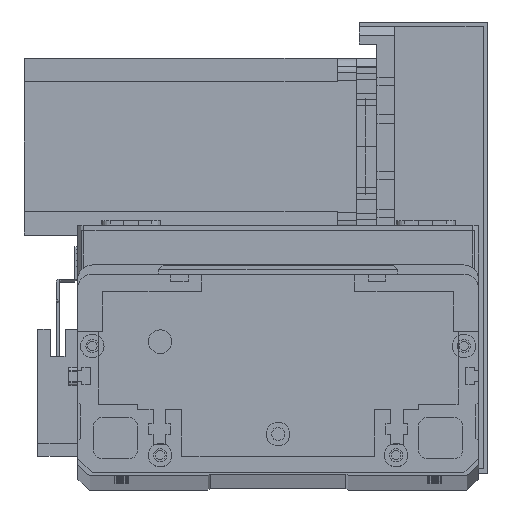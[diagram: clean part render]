
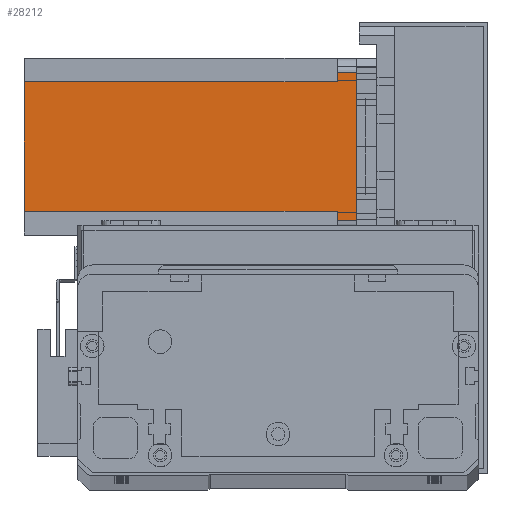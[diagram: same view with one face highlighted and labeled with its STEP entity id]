
A CAD part, top view. The second image highlights one B-rep face of the part: STEP entity #28212.
In plain terms, the highlighted planar face has unit normal (0, 0, 1) as drawn and (0, 1, 0) by its records, which use the part's own axes.
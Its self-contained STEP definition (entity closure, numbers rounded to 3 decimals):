
#403 = DIRECTION ( 'NONE',  ( -1., 0., 0. ) ) ;
#672 = CARTESIAN_POINT ( 'NONE',  ( 52., 60., -112.5 ) ) ;
#700 = DIRECTION ( 'NONE',  ( 0., 0., 1. ) ) ;
#946 = VECTOR ( 'NONE', #15217, 1000. ) ;
#1436 = DIRECTION ( 'NONE',  ( 0., 0., -1. ) ) ;
#1493 = VERTEX_POINT ( 'NONE', #10288 ) ;
#1820 = CARTESIAN_POINT ( 'NONE',  ( 8., 60., -112.5 ) ) ;
#2195 = ORIENTED_EDGE ( 'NONE', *, *, #10609, .F. ) ;
#3015 = ORIENTED_EDGE ( 'NONE', *, *, #12422, .T. ) ;
#3033 = VERTEX_POINT ( 'NONE', #4840 ) ;
#3505 = ORIENTED_EDGE ( 'NONE', *, *, #8983, .T. ) ;
#4778 = VERTEX_POINT ( 'NONE', #11827 ) ;
#4840 = CARTESIAN_POINT ( 'NONE',  ( 55., 60., -6.5 ) ) ;
#5278 = VECTOR ( 'NONE', #403, 1000. ) ;
#5666 = PLANE ( 'NONE',  #27150 ) ;
#6375 = VECTOR ( 'NONE', #15926, 1000. ) ;
#6761 = CARTESIAN_POINT ( 'NONE',  ( 52., 60., -112.5 ) ) ;
#7919 = LINE ( 'NONE', #672, #19904 ) ;
#8370 = LINE ( 'NONE', #18075, #20343 ) ;
#8414 = LINE ( 'NONE', #23848, #20392 ) ;
#8878 = CARTESIAN_POINT ( 'NONE',  ( 8., 60., -6.5 ) ) ;
#8888 = LINE ( 'NONE', #28713, #14494 ) ;
#8983 = EDGE_CURVE ( 'NONE', #21308, #3033, #8414, .T. ) ;
#9417 = ORIENTED_EDGE ( 'NONE', *, *, #15204, .T. ) ;
#10288 = CARTESIAN_POINT ( 'NONE',  ( 52., 60., -6.5 ) ) ;
#10609 = EDGE_CURVE ( 'NONE', #1493, #3033, #20298, .T. ) ;
#11452 = EDGE_CURVE ( 'NONE', #28431, #1493, #7919, .T. ) ;
#11827 = CARTESIAN_POINT ( 'NONE',  ( 8., 60., -112.5 ) ) ;
#11899 = CARTESIAN_POINT ( 'NONE',  ( 55., 60., 0. ) ) ;
#12422 = EDGE_CURVE ( 'NONE', #28431, #4778, #8888, .T. ) ;
#13039 = DIRECTION ( 'NONE',  ( 0., 0., 1. ) ) ;
#14031 = EDGE_CURVE ( 'NONE', #30360, #4778, #27961, .T. ) ;
#14494 = VECTOR ( 'NONE', #28719, 1000. ) ;
#15029 = CARTESIAN_POINT ( 'NONE',  ( 0., 60., 0. ) ) ;
#15204 = EDGE_CURVE ( 'NONE', #30360, #16634, #8370, .T. ) ;
#15217 = DIRECTION ( 'NONE',  ( 1., 0., 0. ) ) ;
#15713 = CARTESIAN_POINT ( 'NONE',  ( 5., 60., -112.5 ) ) ;
#15926 = DIRECTION ( 'NONE',  ( 0., 0., 1. ) ) ;
#15960 = CARTESIAN_POINT ( 'NONE',  ( 52., 60., -6.5 ) ) ;
#15981 = ORIENTED_EDGE ( 'NONE', *, *, #27493, .F. ) ;
#16009 = EDGE_CURVE ( 'NONE', #16634, #28485, #30001, .T. ) ;
#16563 = CARTESIAN_POINT ( 'NONE',  ( 5., 60., 0. ) ) ;
#16634 = VERTEX_POINT ( 'NONE', #25187 ) ;
#17567 = DIRECTION ( 'NONE',  ( -1., 0., 0. ) ) ;
#18075 = CARTESIAN_POINT ( 'NONE',  ( 8., 60., -6.5 ) ) ;
#18917 = LINE ( 'NONE', #15029, #5278 ) ;
#19469 = ORIENTED_EDGE ( 'NONE', *, *, #14031, .F. ) ;
#19904 = VECTOR ( 'NONE', #700, 1000. ) ;
#20298 = LINE ( 'NONE', #15960, #946 ) ;
#20343 = VECTOR ( 'NONE', #17567, 1000. ) ;
#20392 = VECTOR ( 'NONE', #23495, 1000. ) ;
#20436 = EDGE_LOOP ( 'NONE', ( #15981, #3505, #2195, #28060, #3015, #19469, #9417, #27361 ) ) ;
#21308 = VERTEX_POINT ( 'NONE', #11899 ) ;
#23495 = DIRECTION ( 'NONE',  ( 0., 0., -1. ) ) ;
#23848 = CARTESIAN_POINT ( 'NONE',  ( 55., 60., -112.5 ) ) ;
#24706 = CARTESIAN_POINT ( 'NONE',  ( 0., 60., -112.5 ) ) ;
#25187 = CARTESIAN_POINT ( 'NONE',  ( 5., 60., -6.5 ) ) ;
#27092 = DIRECTION ( 'NONE',  ( 0., 1., 0. ) ) ;
#27150 = AXIS2_PLACEMENT_3D ( 'NONE', #24706, #27092, #13039 ) ;
#27244 = VECTOR ( 'NONE', #1436, 1000. ) ;
#27361 = ORIENTED_EDGE ( 'NONE', *, *, #16009, .T. ) ;
#27493 = EDGE_CURVE ( 'NONE', #21308, #28485, #18917, .T. ) ;
#27961 = LINE ( 'NONE', #1820, #27244 ) ;
#28060 = ORIENTED_EDGE ( 'NONE', *, *, #11452, .F. ) ;
#28212 = ADVANCED_FACE ( 'NONE', ( #30718 ), #5666, .T. ) ;
#28431 = VERTEX_POINT ( 'NONE', #6761 ) ;
#28485 = VERTEX_POINT ( 'NONE', #16563 ) ;
#28713 = CARTESIAN_POINT ( 'NONE',  ( 0., 60., -112.5 ) ) ;
#28719 = DIRECTION ( 'NONE',  ( -1., 0., 0. ) ) ;
#30001 = LINE ( 'NONE', #15713, #6375 ) ;
#30360 = VERTEX_POINT ( 'NONE', #8878 ) ;
#30718 = FACE_OUTER_BOUND ( 'NONE', #20436, .T. ) ;
